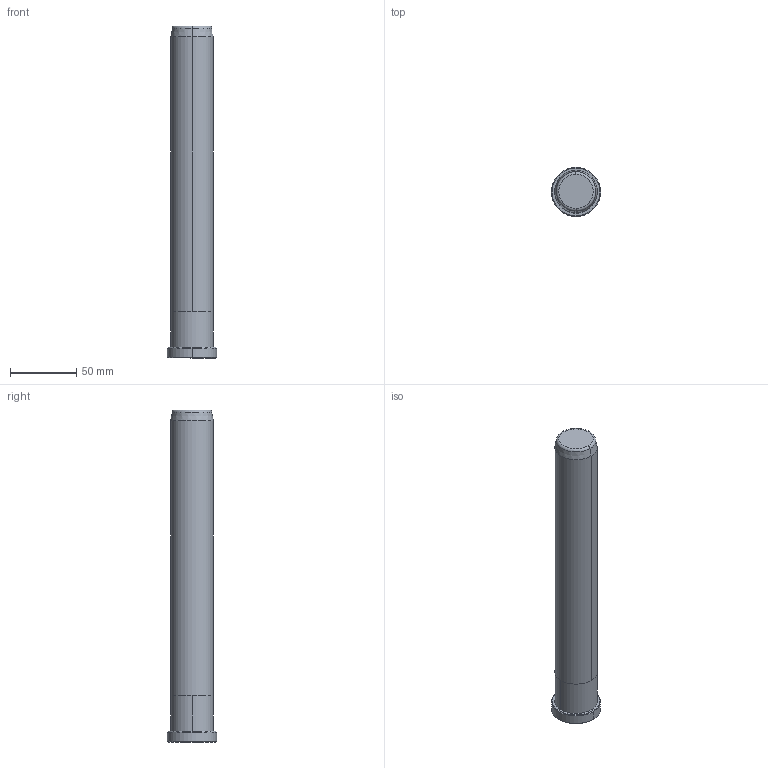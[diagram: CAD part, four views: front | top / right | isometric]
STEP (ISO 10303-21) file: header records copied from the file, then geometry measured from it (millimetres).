
FILE_DESCRIPTION((''),'2;1');
FILE_NAME('B80832250','2018-01-06T',('MANU'),(''),'PRO/ENGINEER BY PARAMETRIC TECHNOLOGY CORPORATION, 2012130','PRO/ENGINEER BY PARAMETRIC TECHNOLOGY CORPORATION, 2012130','');
FILE_SCHEMA(('CONFIG_CONTROL_DESIGN'));
Length unit declared in the file: millimetre
Products named in the file (1): B80832250
Bounding box: 37 x 37 x 250 mm (x, y, z)
Volume: 202626.8 mm3; surface area: 27129.6 mm2
Topology: 1 solids, 1 shells, 18 faces, 34 edges, 20 vertices
Faces by surface type: cone 6, cylinder 6, plane 4, torus 2
Entity records: 494 total; most frequent: DIRECTION 92, CARTESIAN_POINT 72, ORIENTED_EDGE 68, AXIS2_PLACEMENT_3D 40, EDGE_CURVE 34, CIRCLE 22, VERTEX_POINT 20, EDGE_LOOP 20
